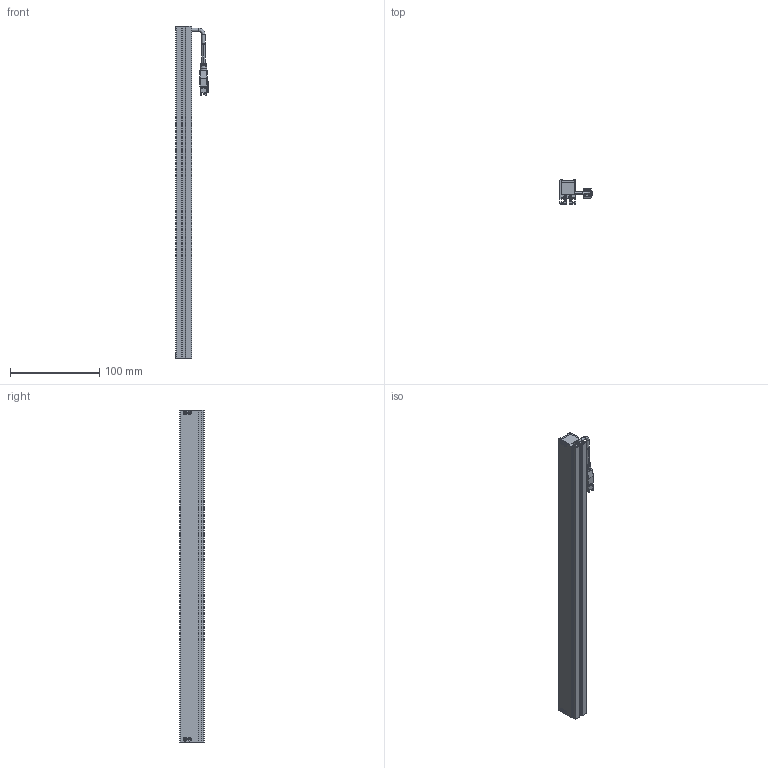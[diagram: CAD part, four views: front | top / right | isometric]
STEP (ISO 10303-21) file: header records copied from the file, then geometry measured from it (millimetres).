
FILE_DESCRIPTION (( 'STEP AP203' ), '1' );
FILE_NAME ('CST-2BS37218-¼òÒ×3DÍ¼.STEP', '2021-06-15T09:16:46', ( '' ), ( '' ), 'SwSTEP 2.0', 'SolidWorks 2018', '' );
FILE_SCHEMA (( 'CONFIG_CONTROL_DESIGN' ));
Length unit declared in the file: millimetre
Products named in the file (1): CST-2BS37218-潠眢3D芞
Bounding box: 36.55 x 27 x 372 mm (x, y, z)
Surface area: 100979.8 mm2 (no closed solid volume)
Topology: 0 solids, 14 shells, 520 faces, 1389 edges, 880 vertices
Faces by surface type: plane 279, cylinder 155, cone 52, bspline 28, torus 6
Entity records: 16712 total; most frequent: CARTESIAN_POINT 3830, ORIENTED_EDGE 2691, DIRECTION 2615, EDGE_CURVE 1369, VECTOR 925, LINE 925, VERTEX_POINT 880, AXIS2_PLACEMENT_3D 845
